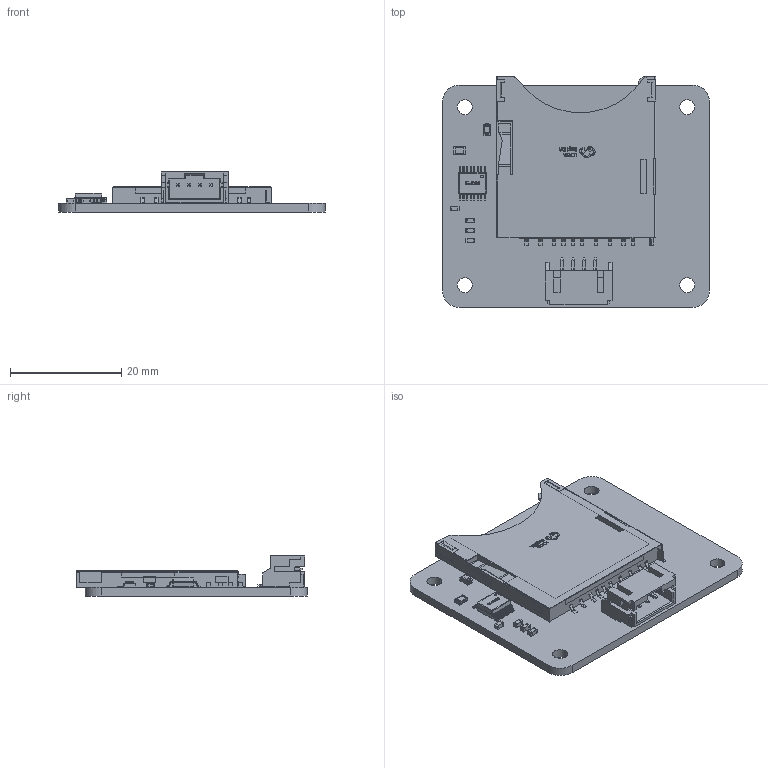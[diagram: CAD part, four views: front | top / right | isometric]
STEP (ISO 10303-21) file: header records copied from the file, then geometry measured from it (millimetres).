
FILE_DESCRIPTION(('Designed by EasyEDA Pro'),'2;1');
FILE_NAME('Open CASCADE Shape Model','2026-08-02T13:36:41',('Author'),( 'Open CASCADE'),'Open CASCADE STEP processor 7.8','Open CASCADE 7.8' ,'Unknown');
FILE_SCHEMA(('AUTOMOTIVE_DESIGN { 1 0 10303 214 1 1 1 1 }'));
Length unit declared in the file: millimetre
Products named in the file (23): EasyEDA PCB Model~xPMt; Board~xPMt; TopCopper~xPMt; BottomCopper~xPMt; TopSilkscreen~xPMt; BottomSilkscreen~xPMt; TopFpcStiffener~xPMt; BottomFpcStiffener~xPMt; R0805~R0805_L2.0-W1.3-H0.6~zLZX; R1~R0805~R0805_L2.0-W1.3-H0.6~I2Ak; LED0805-R-RD~LED0805-RD~pUMR; LED1~LED0805-R-RD~LED0805-RD~iyMW; C0603~C0603_L1.6-W0.8-H0.8~rR9a; C1~C0603~C0603_L1.6-W0.8-H0.8~jAPw; C2~C0603~C0603_L1.6-W0.8-H0.8~h1Qg; C3~C0603~C0603_L1.6-W0.8-H0.8~Ehjp; C4~C0603~C0603_L1.6-W0.8-H0.8~uZPi; SSOP-16_L4.9-W3.9-P0.64-LS6.0-BL~SSOP-16_L4.9-W3.9-H1.75-LS6.0_P0.64~U0Z6; U2~SSOP-16_L4.9-W3.9-P0.64-LS6.0-BL~SSOP-16_L4.9-W3.9-H1.75-LS6.0_P0.64~XXMp; CONN-SMD_4P-P2.00_XUNPU_WAFER-PH2.0-4PWB~CONN-SMD_4P-P2.00_XUNPU_WAFER-PH2.0-4PWB~7L36; U3~CONN-SMD_4P-P2.00_XUNPU_WAFER-PH2.0-4PWB~CONN-SMD_4P-P2.00_XUNPU_WAFER-PH2.0-4PWB~avv4; SD-SMD_SD-106M~SD-SMD_SD-106M~e2cg; CARD1~SD-SMD_SD-106M~SD-SMD_SD-106M~7gP6
Assembly tree (25 placements, depth 3):
  EasyEDA PCB Model~xPMt
    Board~xPMt
    TopCopper~xPMt
    BottomCopper~xPMt
    TopSilkscreen~xPMt
    BottomSilkscreen~xPMt
    TopFpcStiffener~xPMt
    BottomFpcStiffener~xPMt
    R1~R0805~R0805_L2.0-W1.3-H0.6~I2Ak
      R0805~R0805_L2.0-W1.3-H0.6~zLZX
    LED1~LED0805-R-RD~LED0805-RD~iyMW
      LED0805-R-RD~LED0805-RD~pUMR
    C1~C0603~C0603_L1.6-W0.8-H0.8~jAPw
      C0603~C0603_L1.6-W0.8-H0.8~rR9a
    C2~C0603~C0603_L1.6-W0.8-H0.8~h1Qg
      C0603~C0603_L1.6-W0.8-H0.8~rR9a
    C3~C0603~C0603_L1.6-W0.8-H0.8~Ehjp
      C0603~C0603_L1.6-W0.8-H0.8~rR9a
    C4~C0603~C0603_L1.6-W0.8-H0.8~uZPi
      C0603~C0603_L1.6-W0.8-H0.8~rR9a
    U2~SSOP-16_L4.9-W3.9-P0.64-LS6.0-BL~SSOP-16_L4.9-W3.9-H1.75-LS6.0_P0.64~XXMp
      SSOP-16_L4.9-W3.9-P0.64-LS6.0-BL~SSOP-16_L4.9-W3.9-H1.75-LS6.0_P0.64~U0Z6
    U3~CONN-SMD_4P-P2.00_XUNPU_WAFER-PH2.0-4PWB~CONN-SMD_4P-P2.00_XUNPU_WAFER-PH2.0-4PWB~avv4
      CONN-SMD_4P-P2.00_XUNPU_WAFER-PH2.0-4PWB~CONN-SMD_4P-P2.00_XUNPU_WAFER-PH2.0-4PWB~7L36
    CARD1~SD-SMD_SD-106M~SD-SMD_SD-106M~7gP6
      SD-SMD_SD-106M~SD-SMD_SD-106M~e2cg
Bounding box: 47.97 x 41.5 x 7.2 mm (x, y, z)
Volume: 3927.8 mm3; surface area: 8239.4 mm2
Topology: 50 solids, 50 shells, 4424 faces, 11484 edges, 7309 vertices
Faces by surface type: plane 2492, bspline 969, cylinder 703, torus 132, sphere 124, cone 4
Entity records: 148293 total; most frequent: CARTESIAN_POINT 34951, ORIENTED_EDGE 16988, DIRECTION 13926, EDGE_CURVE 8494, LINE 5796, VECTOR 5796, VERTEX_POINT 5373, AXIS2_PLACEMENT_3D 4065
